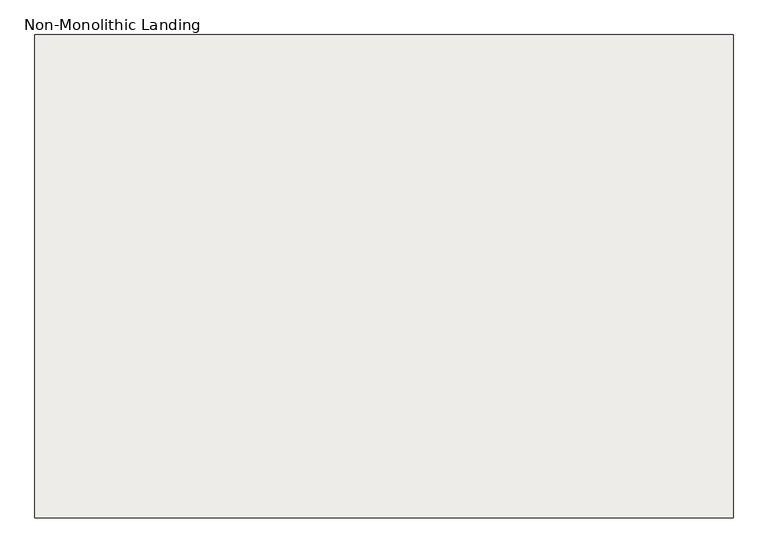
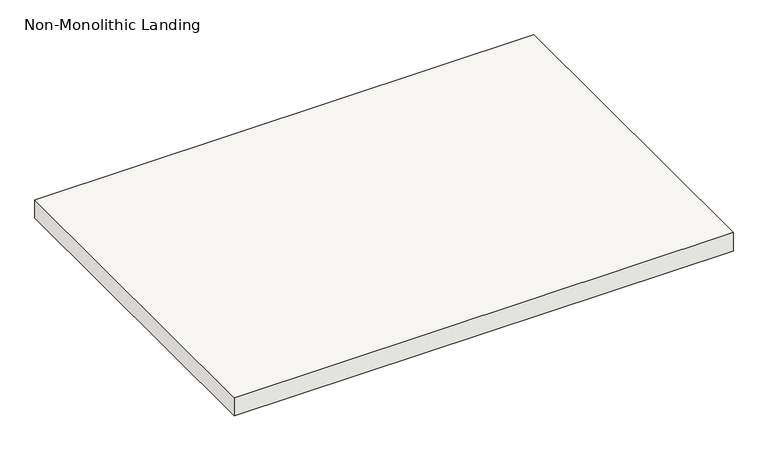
"""IFC4 building model written with IfcOpenShell, lengths in millimetres: slab geometry, Non-Monolithic Landing."""

from ifc_helpers import new_model, si_unit, frame, origin, place, context, project, spatial, polyline, outline, extrude, source, transform, mapped, element, save


def non_monolithic_landing_b9d26340(model_context):
    return source(origin(), model_context, "Body", "SweptSolid", [
        extrude(outline(polyline([(50018.9866768, 22299.7361774), (51339.7866768, 22299.7361774), (51339.7866768, 21385.3361774), (50018.9866768, 21385.3361774), (50018.9866768, 22299.7361774)])), frame((0.0, 0.0, 2126.3428571), z_axis=(0.0, 0.0, 1.0), x_axis=(1.0, 0.0, 0.0)), (0.0, 0.0, 1.0), 50.8),
    ])


if __name__ == "__main__":
    model = new_model("IFC4")
    model_context = context("Model", 3, world=origin())
    ifc_project = project(units=[si_unit("LENGTHUNIT", "METRE", prefix="MILLI")], contexts=[model_context])
    site = spatial("IfcSite", under=ifc_project)
    building = spatial("IfcBuilding", under=site)
    placement = place(None, origin())
    non_monolithic_landing_shape = non_monolithic_landing_b9d26340(model_context)
    element("IfcSlab", 1, ObjectType="Non-Monolithic Landing", at=placement, inside=building, context=model_context, shape_type="MappedRepresentation", body=[
        mapped(non_monolithic_landing_shape, transform((0.0, 0.0, 0.0), x_axis=(1.0, 0.0, 0.0), y_axis=(0.0, 1.0, 0.0), z_axis=(0.0, 0.0, 1.0))),
    ])
    save(model, "model.ifc")
